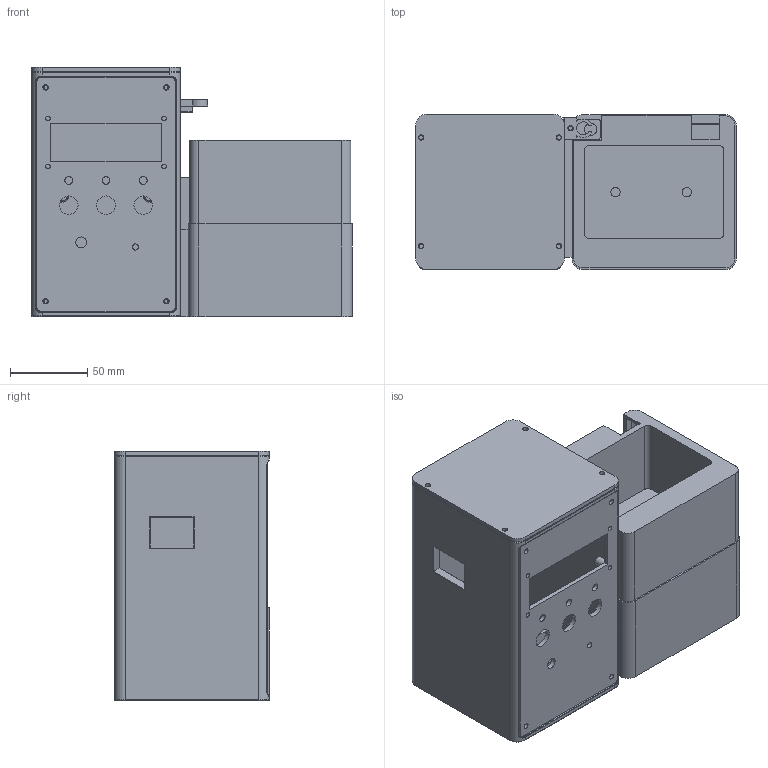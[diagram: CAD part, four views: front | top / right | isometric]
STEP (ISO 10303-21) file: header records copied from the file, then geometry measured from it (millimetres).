
FILE_DESCRIPTION(('Open CASCADE Model'),'2;1');
FILE_NAME('Open CASCADE Shape Model','2026-09-13T21:27:01',('Author'),( 'Open CASCADE'),'Open CASCADE STEP processor 7.9','Open CASCADE 7.9' ,'Unknown');
FILE_SCHEMA(('AUTOMOTIVE_DESIGN { 1 0 10303 214 1 1 1 1 }'));
Length unit declared in the file: millimetre
Products named in the file (6): Open CASCADE STEP translator 7.9 6; Open CASCADE STEP translator 7.9 6.1; Open CASCADE STEP translator 7.9 6.2; Open CASCADE STEP translator 7.9 6.3; Open CASCADE STEP translator 7.9 6.4; Open CASCADE STEP translator 7.9 6.5
Assembly tree (5 placements, depth 2):
  Open CASCADE STEP translator 7.9 6
    Open CASCADE STEP translator 7.9 6.1
    Open CASCADE STEP translator 7.9 6.2
    Open CASCADE STEP translator 7.9 6.3
    Open CASCADE STEP translator 7.9 6.4
    Open CASCADE STEP translator 7.9 6.5
Bounding box: 207 x 100 x 161 mm (x, y, z)
Volume: 759257.7 mm3; surface area: 315235 mm2
Topology: 5 solids, 5 shells, 361 faces, 904 edges, 580 vertices
Faces by surface type: plane 197, cylinder 136, torus 20, bspline 4, cone 4
Full cylindrical faces by diameter (mm): 2.8 x13, 3 x4, 3.4 x11, 4 x1, 5 x3, 5.4 x3, 6 x6, 7 x1, 8 x10, 10.4 x1, 12 x3, 14.4 x1
Entity records: 24393 total; most frequent: CARTESIAN_POINT 6124, DIRECTION 3379, LINE 1828, VECTOR 1828, ORIENTED_EDGE 1808, PCURVE 1808, DEFINITIONAL_REPRESENTATION 1808, EDGE_CURVE 904
